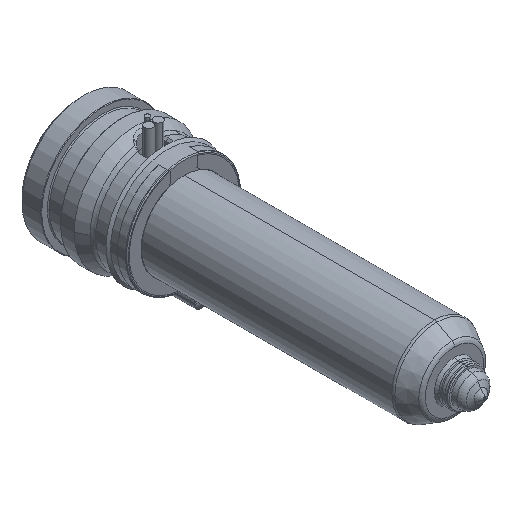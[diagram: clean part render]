
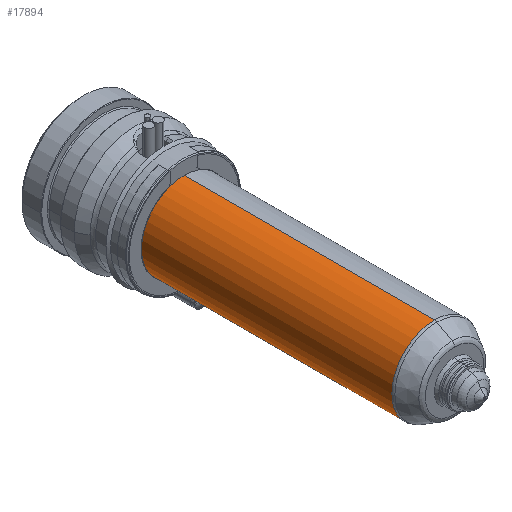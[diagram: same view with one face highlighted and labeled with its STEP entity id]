
A CAD part, isometric view. The second image highlights one B-rep face of the part: STEP entity #17894.
In plain terms, the highlighted cylindrical face has radius 9 mm (diameter 18 mm), a partial arc.
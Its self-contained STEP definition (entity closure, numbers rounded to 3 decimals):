
#17251=CARTESIAN_POINT('',(0.,-74.8,0.));
#17252=DIRECTION('',(0.,-1.,0.));
#17253=DIRECTION('',(0.,0.,1.));
#17254=AXIS2_PLACEMENT_3D('',#17251,#17252,#17253);
#17259=CARTESIAN_POINT('',(0.,-22.,0.));
#17260=DIRECTION('',(0.,1.,0.));
#17261=DIRECTION('',(0.,0.,-1.));
#17262=AXIS2_PLACEMENT_3D('',#17259,#17260,#17261);
#17267=DIRECTION('',(0.,1.,0.));
#17268=VECTOR('',#17267,52.8);
#17269=CARTESIAN_POINT('',(0.,-74.8,9.));
#17270=LINE('',#17269,#17268);
#17282=DIRECTION('',(0.,1.,0.));
#17283=VECTOR('',#17282,52.8);
#17284=CARTESIAN_POINT('',(0.,-74.8,-9.));
#17285=LINE('',#17284,#17283);
#17477=CARTESIAN_POINT('',(0.,-74.8,9.));
#17478=CARTESIAN_POINT('',(0.,-22.,9.));
#17479=VERTEX_POINT('',#17477);
#17480=VERTEX_POINT('',#17478);
#17481=CARTESIAN_POINT('',(0.,-74.8,-9.));
#17482=CARTESIAN_POINT('',(0.,-22.,-9.));
#17483=VERTEX_POINT('',#17481);
#17484=VERTEX_POINT('',#17482);
#17880=CARTESIAN_POINT('',(0.,-14.625,0.));
#17881=DIRECTION('',(0.,-1.,0.));
#17882=DIRECTION('',(0.,0.,1.));
#17883=AXIS2_PLACEMENT_3D('',#17880,#17881,#17882);
#17884=CYLINDRICAL_SURFACE('',#17883,9.);
#17886=ORIENTED_EDGE('',*,*,#17885,.F.);
#17887=ORIENTED_EDGE('',*,*,#17875,.T.);
#17889=ORIENTED_EDGE('',*,*,#17888,.T.);
#17891=ORIENTED_EDGE('',*,*,#17890,.T.);
#17892=EDGE_LOOP('',(#17886,#17887,#17889,#17891));
#17893=FACE_OUTER_BOUND('',#17892,.F.);
#17894=ADVANCED_FACE('',(#17893),#17884,.T.);
#17255=CIRCLE('',#17254,9.);
#17263=CIRCLE('',#17262,9.);
#17875=EDGE_CURVE('',#17479,#17483,#17255,.T.);
#17885=EDGE_CURVE('',#17479,#17480,#17270,.T.);
#17888=EDGE_CURVE('',#17483,#17484,#17285,.T.);
#17890=EDGE_CURVE('',#17484,#17480,#17263,.T.);
